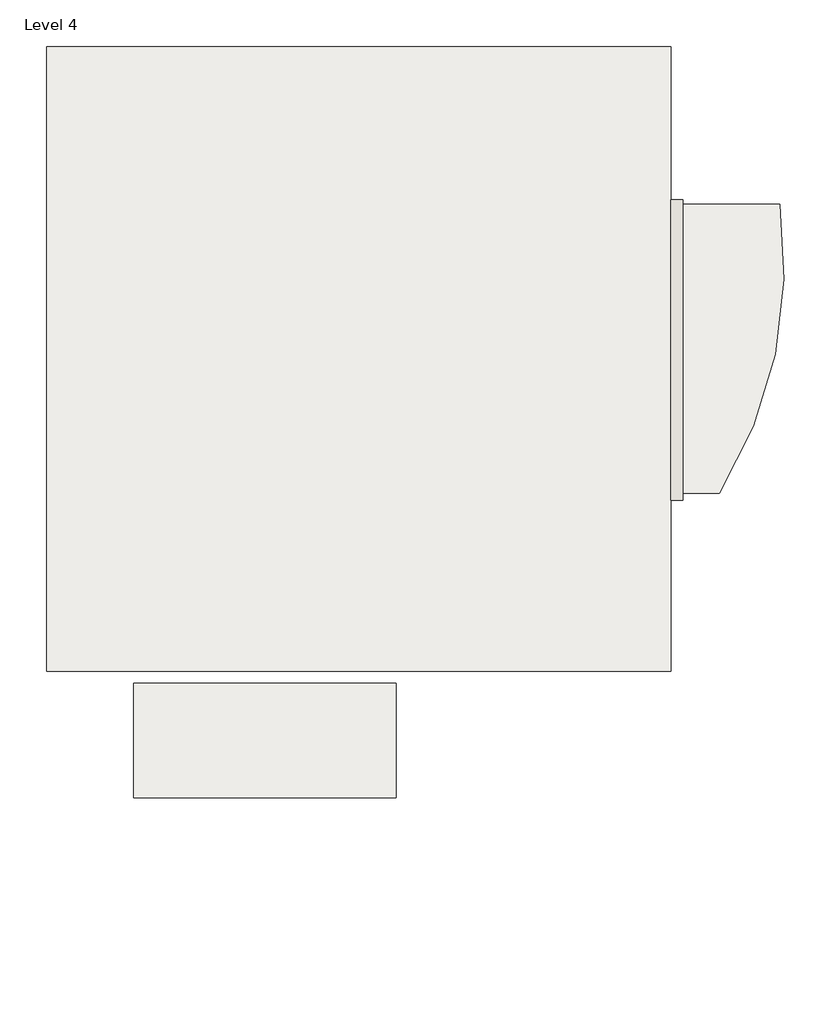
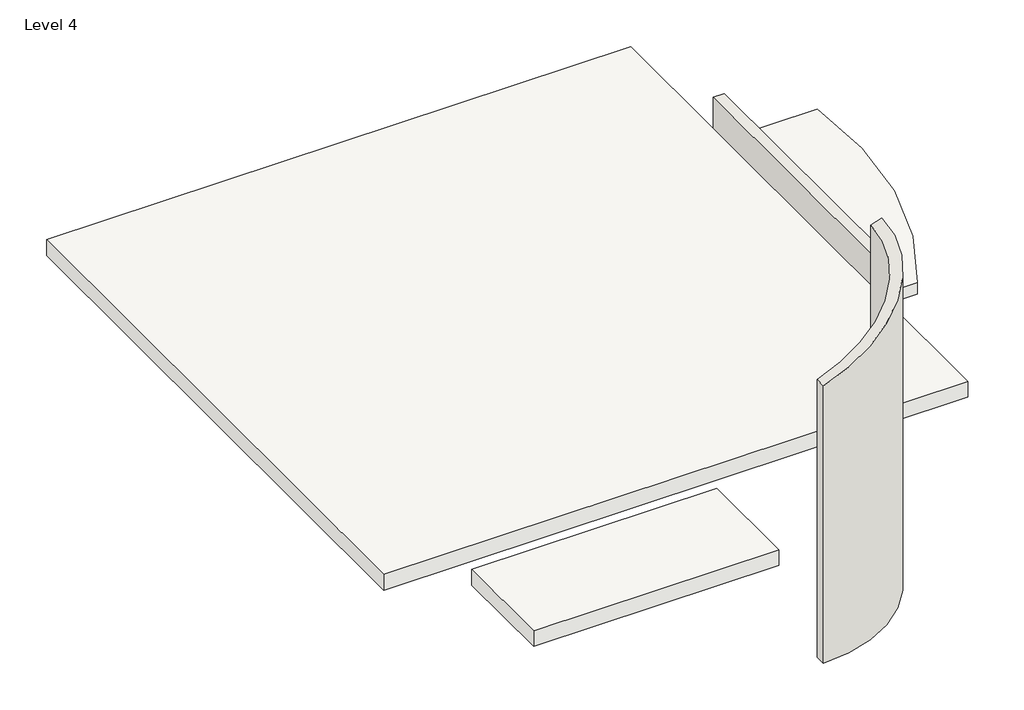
# One storey: 2 roofs, 2 walls, 1 slab.
"""IFC4 building model written with IfcOpenShell, lengths in millimetres."""

from ifc_helpers import new_model, si_unit, point, frame, frame_2d, origin, place, context, project, spatial, polyline, circle_curve, ellipse_curve, trimmed, segment, composite_curve, outline, extrude, element, save
from ifc_brep_helpers import plane_surface, cylinder_surface, revolved_surface, advanced_brep

model = new_model("IFC4")

# Units and contexts
model_context = context("Model", 3, world=origin())
ifc_project = project(units=[si_unit("LENGTHUNIT", "METRE", prefix="MILLI")], contexts=[model_context])

# Site, building, storey
site = spatial("IfcSite", under=ifc_project)
building = spatial("IfcBuilding", under=site)
storey = spatial("IfcBuildingStorey", under=building, Name="Level 4", Elevation=10972.8)

# Roofs
placement = place(None, origin())
element("IfcRoof", 1, ObjectType="Generic - 12\"", at=placement, inside=storey, context=model_context, shape_type="SweptSolid", body=[
    extrude(outline(polyline([(-120356.573281, 47382.2683781), (-109586.973281, 47382.2683781), (-109586.973281, 36612.6683781), (-120356.573281, 36612.6683781), (-120356.573281, 47382.2683781)])), frame((0.0, 0.0, 10972.8), z_axis=(0.0, 0.0, 1.0), x_axis=(1.0, 0.0, 0.0)), (0.0, 0.0, 1.0), 304.8),
])
element("IfcRoof", 2, ObjectType="Generic - 9\"", at=placement, inside=storey, context=model_context, shape_type="SweptSolid", body=[
    extrude(outline(composite_curve([segment(polyline([(-109390.8087895, 44663.2688068), (-107714.4087895, 44663.2688068)]), True, "CONTINUOUS"), segment(trimmed(circle_curve(frame_2d((-115013.4385797, 43584.8039474)), 7378.2736688), [point((-107714.4087895, 44663.2688068))], [point((-108750.0985578, 39684.8688068))], False, "CARTESIAN"), True, "CONTINUOUS"), segment(polyline([(-108750.0985578, 39684.8688068), (-109390.8087895, 39684.8688068), (-109390.8087895, 44663.2688068)]), True, "CONTINUOUS")], self_intersect=False)), frame((0.0, 0.0, 10820.4), z_axis=(0.0, 0.0, 1.0), x_axis=(1.0, 0.0, 0.0)), (0.0, 0.0, 1.0), 228.6),
])

# Slab
element("IfcSlab", 3, ObjectType="Floor 1", at=placement, inside=storey, context=model_context, shape_type="SweptSolid", body=[
    extrude(outline(polyline([(-114330.3316949, 34435.5831165), (-118851.5316949, 34435.5831165), (-118851.5316949, 36409.4683781), (-114330.3316949, 36409.4683781), (-114330.3316949, 34435.5831165)])), frame((0.0, 0.0, 10668.0), z_axis=(0.0, 0.0, 1.0), x_axis=(1.0, 0.0, 0.0)), (0.0, 0.0, 1.0), 304.8),
])

# Walls
element("IfcWall", 4, ObjectType="8\" Exterior", at=placement, inside=storey, context=model_context, shape_type="SweptSolid", body=[
    extrude(outline(polyline([(-109586.973281, 39559.0683781), (-109586.973281, 44740.6683781), (-109383.773281, 44740.6683781), (-109383.773281, 39559.0683781), (-109586.973281, 39559.0683781)])), frame((0.0, 0.0, 10972.8), z_axis=(0.0, 0.0, 1.0), x_axis=(1.0, 0.0, 0.0)), (0.0, 0.0, 1.0), 914.4),
])
element("IfcWall", 5, ObjectType="8\" Exterior", at=placement, inside=storey, context=model_context, shape_type="AdvancedBrep", body=[
    advanced_brep(
    [(-115295.5316949, 31336.7831165, 10972.8), (-115295.5316949, 31539.9831165, 10972.8), (-112958.7316949, 33876.7831165, 10972.8), (-112755.5316949, 33876.7831165, 10972.8), (-112755.5316949, 33876.7831165, 17231.813862), (-115295.5316949, 31336.7831165, 16385.1471954), (-112958.7316949, 33876.7831165, 17164.0805287), (-115295.5316949, 31539.9831165, 16385.1471954)],
    [
        (0, 1),
        (1, 2, circle_curve(frame((-115295.5316949, 33876.7831165, 10972.8), z_axis=(0.0, 0.0, 1.0), x_axis=(1.0, 0.0, 0.0)), 2336.8)),
        (2, 3),
        (3, 0, circle_curve(frame((-115295.5316949, 33876.7831165, 10972.8), z_axis=(0.0, 0.0, -1.0), x_axis=(1.0, 0.0, 0.0)), 2540.0)),
        (4, 5, ellipse_curve(frame((-115295.5316949, 33876.7831165, 16385.1471954), z_axis=(0.316227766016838, 0.0, -0.9486832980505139), x_axis=(0.9486832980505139, 0.0, 0.31622776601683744)), 2677.3950856, 2540.0)),
        (5, 0),
        (3, 4),
        (6, 4),
        (2, 6),
        (7, 6, ellipse_curve(frame((-115295.5316949, 33876.7831165, 16385.1471954), z_axis=(-0.316227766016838, 0.0, 0.9486832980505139), x_axis=(-0.9486832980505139, 0.0, -0.31622776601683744)), 2463.2034788, 2336.8)),
        (1, 7),
        (5, 7),
    ],
    [
        plane_surface(frame((-112755.5316949, 33876.7831165, 10972.8), z_axis=(0.0, 0.0, -1.0), x_axis=(0.0, -1.0, 0.0))),
        cylinder_surface(frame((-115295.5316949, 33876.7831165, 10972.8), z_axis=(0.0, 0.0, 1.0), x_axis=(1.0, 0.0, 0.0)), 2540.0),
        plane_surface(frame((-112755.5316949, 33876.7831165, 17231.813862), z_axis=(0.0, 1.0, 0.0), x_axis=(0.0, 0.0, -1.0))),
        revolved_surface(polyline([(-112958.7316949, 33876.7831165, 10972.8), (-112958.7316949, 33876.7831165, 17164.080528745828)]), (-115295.5316949, 33876.7831165, 10972.8), (0.0, 0.0, -1.0)),
        plane_surface(frame((-115295.5316949, 31539.9831165, 17231.813862), z_axis=(-1.0, 0.0, 0.0), x_axis=(0.0, 0.0, -1.0))),
        plane_surface(frame((-120585.173281, 31311.3831165, 14621.9333333), z_axis=(-0.316227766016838, 0.0, 0.9486832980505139), x_axis=(0.0, -1.0, 0.0))),
    ],
    [
        (0, [[1, 2, 3, 4]]),
        (1, [[5, 6, -4, 7]]),
        (2, [[8, -7, -3, 9]]),
        (3, [[10, -9, -2, 11]]),
        (4, [[12, -11, -1, -6]]),
        (5, [[-5, -8, -10, -12]]),
    ],
),
])

save(model, "model.ifc")
